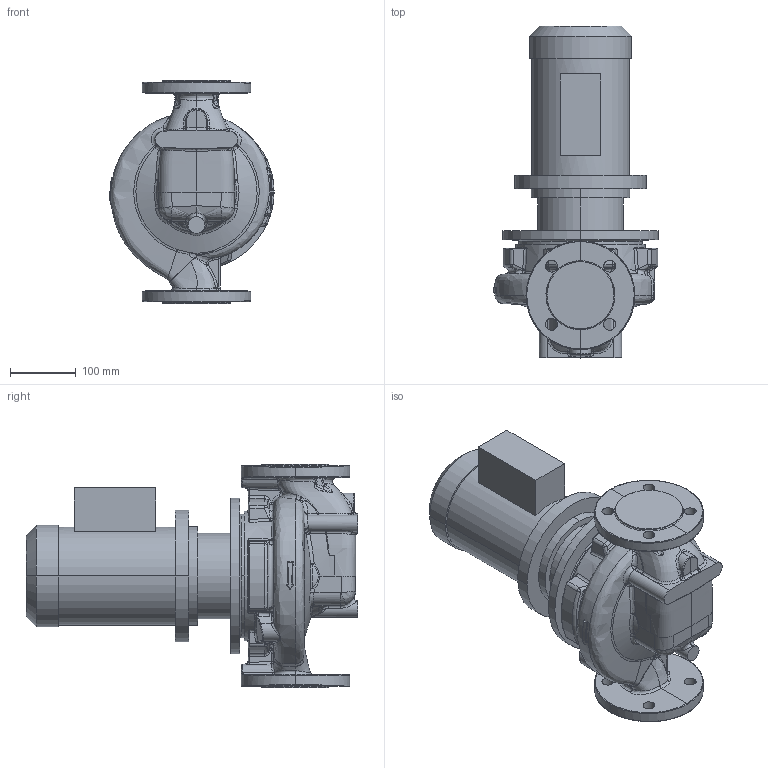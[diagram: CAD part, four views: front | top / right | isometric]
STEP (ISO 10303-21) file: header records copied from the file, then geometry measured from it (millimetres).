
FILE_DESCRIPTION (( 'STEP AP214' ), '1' );
FILE_NAME ('KRL 50-160-4-0,55.STEP', '2026-03-19T11:30:25', ( '' ), ( '' ), 'SwSTEP 2.0', 'SolidWorks 2016', '' );
FILE_SCHEMA (( 'AUTOMOTIVE_DESIGN' ));
Length unit declared in the file: millimetre
Products named in the file (1): KRL 50-160-4-0,55
Bounding box: 249.65 x 504.3 x 340 mm (x, y, z)
Volume: 13341322.3 mm3; surface area: 756282.2 mm2
Topology: 4 solids, 4 shells, 761 faces, 1822 edges, 1057 vertices
Faces by surface type: bspline 413, cylinder 135, plane 96, sphere 57, cone 34, torus 26
Entity records: 88346 total; most frequent: CARTESIAN_POINT 65813, ORIENTED_EDGE 3582, DIRECTION 2100, EDGE_CURVE 1791, VERTEX_POINT 1057, AXIS2_PLACEMENT_3D 933, B_SPLINE_CURVE_WITH_KNOTS 841, EDGE_LOOP 796
